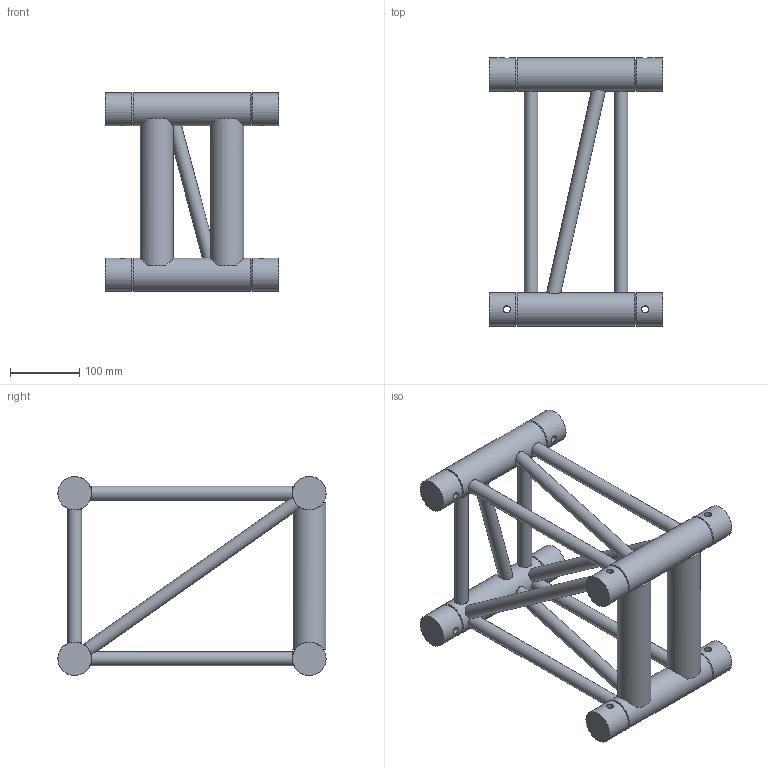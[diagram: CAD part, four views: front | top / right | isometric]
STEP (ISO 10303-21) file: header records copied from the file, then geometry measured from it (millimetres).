
FILE_DESCRIPTION(/* description */ (''),/* implementation_level */ '2;1');
FILE_NAME(/* name */ 'C:\Users\adrian.toca\Desktop\211050117.stp',/* time_stamp */ '2016-09-19T09:26:37+03:00',/* author */ ('adrian.toca'),/* organization */ (''),/* preprocessor_version */ 'ST-DEVELOPER v15.6',/* originating_system */ 'Autodesk Inventor 2015',/* authorisation */ '');
FILE_SCHEMA (('AUTOMOTIVE_DESIGN { 1 0 10303 214 3 1 1 }'));
Length unit declared in the file: millimetre
Products named in the file (1): 260030917
Bounding box: 250 x 387.3 x 287.3 mm (x, y, z)
Volume: 3487504.7 mm3; surface area: 432470.8 mm2
Topology: 7 solids, 7 shells, 114 faces, 270 edges, 169 vertices
Faces by surface type: plane 68, cylinder 38, cone 8
Full cylindrical faces by diameter (mm): 10 x8, 20 x11, 48.3 x14
Entity records: 3774 total; most frequent: CARTESIAN_POINT 1208, DIRECTION 498, ORIENTED_EDGE 432, AXIS2_PLACEMENT_3D 234, EDGE_CURVE 202, EDGE_LOOP 198, VERTEX_POINT 154, STYLED_ITEM 110
